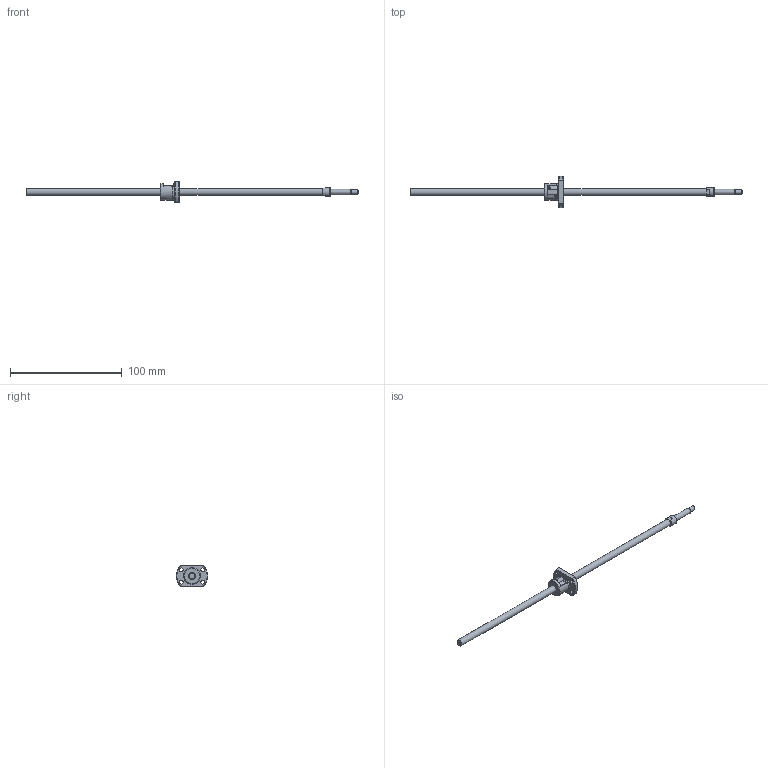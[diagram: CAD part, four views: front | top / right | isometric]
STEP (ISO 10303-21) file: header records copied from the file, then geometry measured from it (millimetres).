
FILE_DESCRIPTION(/* description */ ('STEP AP214'),/* implementation_level */ '2;1');
FILE_NAME(/* name */ 'SRT0602-261R297C7A0X(120Processing)',/* time_stamp */ '2026-08-04T17:55:33+02:00',/* author */ ('License CC BY-ND 4.0'),/* organization */ ('CADENAS'),/* preprocessor_version */ 'ST-DEVELOPER v20',/* originating_system */ 'PARTsolutions',/* authorisation */ ' ');
FILE_SCHEMA (('AUTOMOTIVE_DESIGN {1 0 10303 214 3 1 1}'));
Length unit declared in the file: millimetre
Products named in the file (3): SRT0602-261R297C7A0X(120Processing); SRT0602-261R335ACt7Processing18Shaft; SRT0602Nut
Assembly tree (2 placements, depth 2):
  SRT0602-261R297C7A0X(120Processing)
    SRT0602-261R335ACt7Processing18Shaft
    SRT0602Nut
Bounding box: 297 x 27.9 x 19 mm (x, y, z)
Volume: 11726.8 mm3; surface area: 7908.5 mm2
Topology: 2 solids, 2 shells, 67 faces, 159 edges, 102 vertices
Faces by surface type: plane 32, cone 17, cylinder 17, torus 1
Full cylindrical faces by diameter (mm): 2 x2, 3.4 x4, 4 x1, 5 x1, 6 x2, 8 x1, 14.5 x1, 15 x1
Entity records: 1865 total; most frequent: CARTESIAN_POINT 362, DIRECTION 310, ORIENTED_EDGE 254, AXIS2_PLACEMENT_3D 133, EDGE_CURVE 127, EDGE_LOOP 104, FACE_BOUND 104, VERTEX_POINT 91
